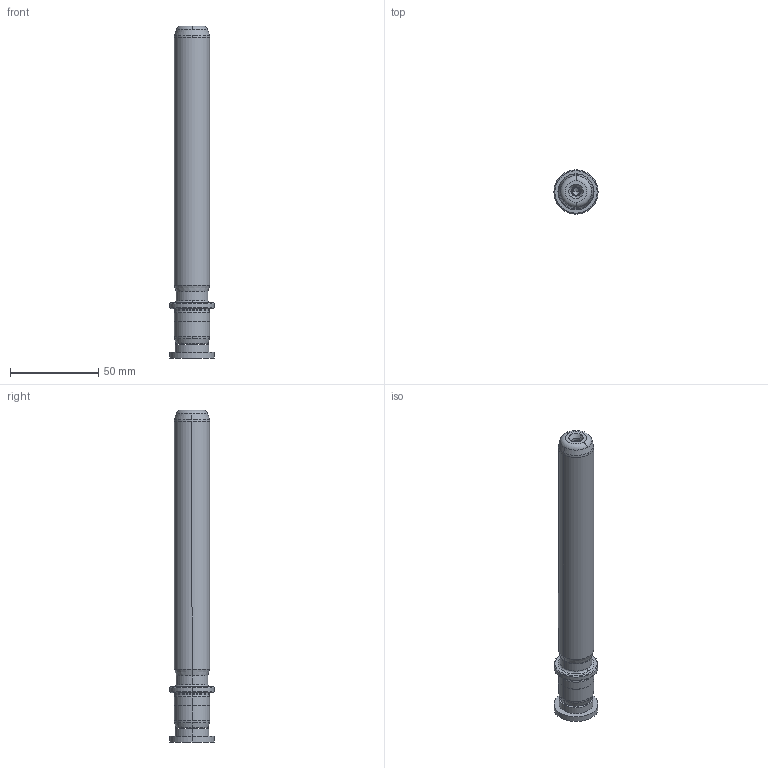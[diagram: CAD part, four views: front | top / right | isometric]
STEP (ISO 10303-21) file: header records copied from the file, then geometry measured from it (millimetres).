
FILE_DESCRIPTION((''),'2;1');
FILE_NAME('P22_020_160.stp','2009-02-02T11:07:29',(''),(''),'Mechanical Desktop 2009','Mechanical Desktop 2009',', , ');
FILE_SCHEMA(('CONFIG_CONTROL_DESIGN'));
Length unit declared in the file: millimetre
Products named in the file (2): Product; blmdl1
Assembly tree (1 placements, depth 2):
  Product
    blmdl1
Bounding box: 25 x 25 x 188 mm (x, y, z)
Volume: 58427.3 mm3; surface area: 14682.5 mm2
Topology: 3 solids, 3 shells, 99 faces, 237 edges, 149 vertices
Faces by surface type: cylinder 32, cone 28, plane 19, bspline 12, torus 8
Entity records: 3499 total; most frequent: CARTESIAN_POINT 1011, DIRECTION 566, ORIENTED_EDGE 466, AXIS2_PLACEMENT_3D 244, EDGE_CURVE 233, CIRCLE 155, VERTEX_POINT 149, EDGE_LOOP 110
